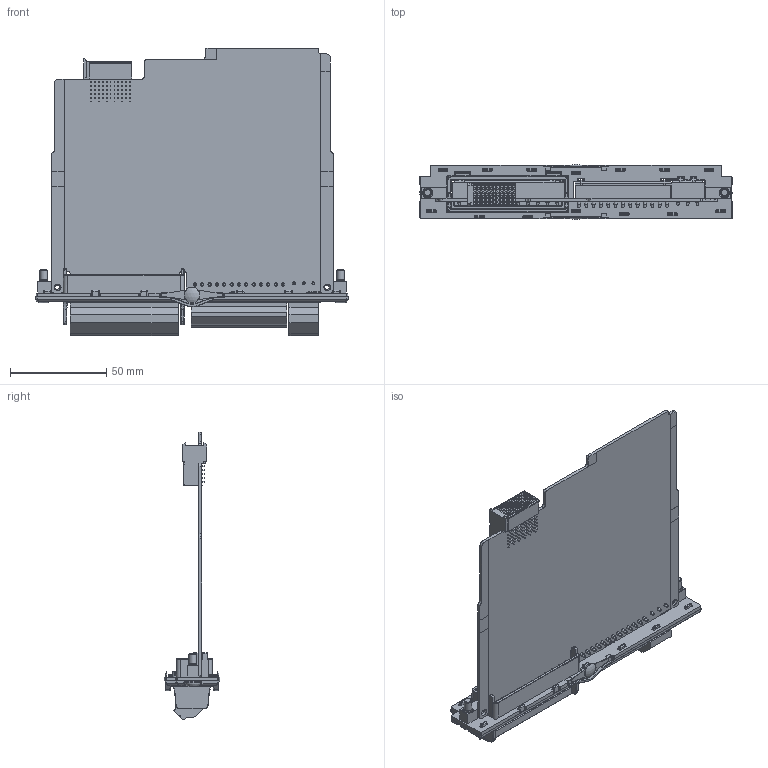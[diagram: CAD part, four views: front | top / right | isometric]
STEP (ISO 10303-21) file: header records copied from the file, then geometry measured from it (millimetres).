
FILE_DESCRIPTION(/* description */ (''),/* implementation_level */ '2;1');
FILE_NAME(/* name */ 'GAM3.2_3D CAD_20250228.stp',/* time_stamp */ '2025-02-28T14:51:54+01:00',/* author */ ('DSP'),/* organization */ (''),/* preprocessor_version */ 'ST-DEVELOPER v19.2',/* originating_system */ 'Autodesk Inventor 2023',/* authorisation */ '');
FILE_SCHEMA (('AUTOMOTIVE_DESIGN { 1 0 10303 214 3 1 1 }'));
Products named in the file (1): GAM3.2_3D CAD_SMPL_20250228
Bounding box: 162 x 28.71 x 149.2 mm (x, y, z)
Volume: 80079 mm3; surface area: 68382.8 mm2
Topology: 1 solids, 1 shells, 3465 faces, 8722 edges, 5314 vertices
Faces by surface type: plane 1987, cylinder 988, bspline 270, sphere 112, cone 61, torus 47
Full cylindrical faces by diameter (mm): 0.6 x12, 1.6 x14, 1.7 x13, 2.459 x2, 2.5 x2, 2.8 x13, 3 x2, 3.242 x2, 4 x16, 4.4 x2, 5.5 x2, 8 x2
Entity records: 112574 total; most frequent: CARTESIAN_POINT 26229, DIRECTION 17192, ORIENTED_EDGE 17188, EDGE_CURVE 8594, LINE 5848, VECTOR 5848, AXIS2_PLACEMENT_3D 5672, VERTEX_POINT 5314
